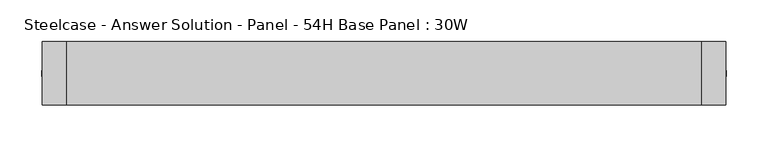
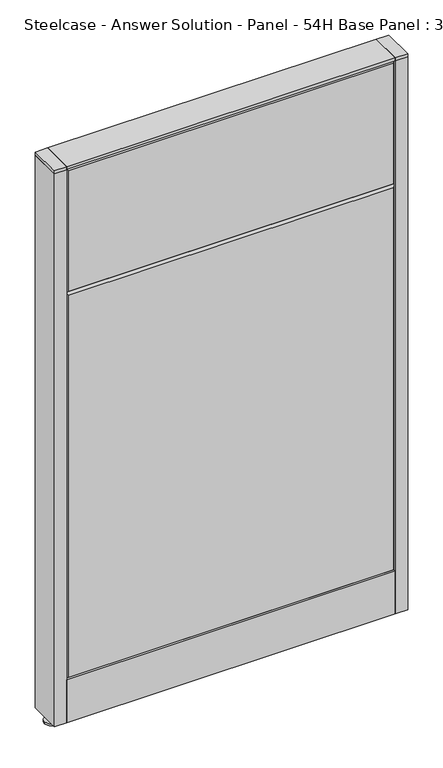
"""IFC4 building model written with IfcOpenShell, lengths in millimetres: furniture geometry, Steelcase - Answer Solution - Panel - 54H Base Panel : 30W."""

import ifcopenshell
import ifcopenshell.guid

model = None  # the IFC model being written
_history = None  # IfcOwnerHistory: only IFC2X3 demands one
_inside = {}  # id of a spatial element -> (the spatial element, [elements in it])
_under = {}  # id of a project, library or spatial element -> (it, [spatial elements below it])
_declared = {}  # id of a project -> (the project, [libraries it declares])
_typed = {}  # id of a type object -> (the type object, [elements of that type])
_made_of = {}  # id of a material, layer set ... -> (it, [elements and type objects made of it])


def new_model(schema):
    """Start an empty IFC model of exactly this schema.

    Asked for "IFC4X3", IfcOpenShell would pick the latest addendum, in which some entities
    have other attributes; the version numbers below select the first issue.
    IFC2X3 requires an IfcOwnerHistory on every rooted entity: one is made here for all.
    """
    global model, _history
    if schema == "IFC4X3":
        model = ifcopenshell.file(schema_version=(4, 3, 0, 0))
    else:
        model = ifcopenshell.file(schema=schema)
    _inside.clear()
    _under.clear()
    _declared.clear()
    _typed.clear()
    _made_of.clear()
    _history = None
    if model.schema == "IFC2X3":
        org = make("IfcOrganization", Name="unknown")
        user = make(
            "IfcPersonAndOrganization",
            ThePerson=make("IfcPerson", FamilyName="unknown"),
            TheOrganization=org,
        )
        app = make(
            "IfcApplication",
            ApplicationDeveloper=org,
            Version="unknown",
            ApplicationFullName="unknown",
            ApplicationIdentifier="unknown",
        )
        _history = make(
            "IfcOwnerHistory",
            OwningUser=user,
            OwningApplication=app,
            ChangeAction="ADDED",
            CreationDate=0,
        )
    return model


def make(cls, **values):
    """One entity of the class cls with the attributes given. An attribute that is None is left unset."""
    return model.create_entity(
        cls, **{name: value for name, value in values.items() if value is not None}
    )


def rooted(cls, **values):
    """An entity with a GlobalId (a new one), such as an element, a storey or a relation."""
    return make(cls, GlobalId=ifcopenshell.guid.new(), OwnerHistory=_history, **values)


def si_unit(unit_type, name, prefix=None):
    """IfcSIUnit, for example si_unit("LENGTHUNIT", "METRE", prefix="MILLI")."""
    return make("IfcSIUnit", UnitType=unit_type, Prefix=prefix, Name=name)


def assignment(units):
    """IfcUnitAssignment: the units of a project."""
    return None if units is None else make("IfcUnitAssignment", Units=units)


def point(xyz):
    """IfcCartesianPoint."""
    return None if xyz is None else make("IfcCartesianPoint", Coordinates=xyz)


def direction(xyz):
    """IfcDirection."""
    return None if xyz is None else make("IfcDirection", DirectionRatios=xyz)


def frame(location, z_axis=None, x_axis=None):
    """IfcAxis2Placement3D, a coordinate frame: its origin and axes. An axis left out is left unset."""
    return make(
        "IfcAxis2Placement3D",
        Location=point(location),
        Axis=direction(z_axis),
        RefDirection=direction(x_axis),
    )


def frame_2d(location, x_axis=None):
    """IfcAxis2Placement2D, a coordinate frame in the plane: its origin and x axis."""
    return make(
        "IfcAxis2Placement2D", Location=point(location), RefDirection=direction(x_axis)
    )


def origin():
    """The frame at (0, 0, 0) with its axes left unset."""
    return frame((0.0, 0.0, 0.0))


def place(relative_to, where):
    """IfcLocalPlacement: puts the frame where relative to a parent placement (None: the world)."""
    return make(
        "IfcLocalPlacement", PlacementRelTo=relative_to, RelativePlacement=where
    )


def context(
    kind, dimensions, precision=None, world=None, true_north=None, identifier=None
):
    """IfcGeometricRepresentationContext, for example the 3D "Model" context."""
    return make(
        "IfcGeometricRepresentationContext",
        ContextIdentifier=identifier,
        ContextType=kind,
        CoordinateSpaceDimension=dimensions,
        Precision=precision,
        WorldCoordinateSystem=world,
        TrueNorth=true_north,
    )


def project(units=None, contexts=None):
    """IfcProject with its units and contexts."""
    return rooted(
        "IfcProject",
        Name="project",
        RepresentationContexts=contexts,
        UnitsInContext=assignment(units),
    )


def spatial(cls, under=None, at=None, **own):
    """A site, building, storey or space (cls), placed at a placement, below another one or the project."""
    s = rooted(cls, ObjectPlacement=at, **own)
    if under is not None:
        _under.setdefault(under.id(), (under, []))[1].append(s)
    return s


def polyline(points):
    """IfcPolyline through the points."""
    return make("IfcPolyline", Points=[point(p) for p in points])


def circle_curve(where, radius):
    """IfcCircle in the frame where."""
    return make("IfcCircle", Position=where, Radius=radius)


def trimmed(basis, trim1, trim2, sense, master):
    """IfcTrimmedCurve: the piece of a basis curve between two trims."""
    return make(
        "IfcTrimmedCurve",
        BasisCurve=basis,
        Trim1=trim1,
        Trim2=trim2,
        SenseAgreement=sense,
        MasterRepresentation=master,
    )


def segment(curve, same_sense, transition):
    """IfcCompositeCurveSegment."""
    return make(
        "IfcCompositeCurveSegment",
        Transition=transition,
        SameSense=same_sense,
        ParentCurve=curve,
    )


def composite_curve(segments, self_intersect=None):
    """IfcCompositeCurve: segments joined end to end."""
    return make("IfcCompositeCurve", Segments=segments, SelfIntersect=self_intersect)


def outline(outer, holes=None, kind="AREA"):
    """IfcArbitraryClosedProfileDef: a profile drawn as a closed curve; with holes, ...WithVoids."""
    if holes is None:
        return make("IfcArbitraryClosedProfileDef", ProfileType=kind, OuterCurve=outer)
    return make(
        "IfcArbitraryProfileDefWithVoids",
        ProfileType=kind,
        OuterCurve=outer,
        InnerCurves=holes,
    )


def extrude(swept, where, along, depth):
    """IfcExtrudedAreaSolid: the profile swept, set in the frame where, extruded along a direction by depth."""
    return make(
        "IfcExtrudedAreaSolid",
        SweptArea=swept,
        Position=where,
        ExtrudedDirection=direction(along),
        Depth=depth,
    )


def faces_of(points, faces, orient=None, outer=None):
    """IfcFace entities. A face is a list of loops; a loop is a list of indices into points, from 0.

    orient and outer hold one flag for each loop. By default every Orientation is true, the
    first loop of a face is its IfcFaceOuterBound and the others are IfcFaceBound.
    """
    made = []
    for i, loops in enumerate(faces):
        bounds = []
        for j, loop in enumerate(loops):
            is_outer = j == 0 if outer is None else outer[i][j]
            bounds.append(
                make(
                    "IfcFaceOuterBound" if is_outer else "IfcFaceBound",
                    Bound=make("IfcPolyLoop", Polygon=[points[k] for k in loop]),
                    Orientation=True if orient is None else orient[i][j],
                )
            )
        made.append(make("IfcFace", Bounds=bounds))
    return made


def faceted_brep(points, faces, orient=None, outer=None, voids=None):
    """IfcFacetedBrep: a solid bounded by flat faces; with voids (closed shells), ...WithVoids."""
    shared = [point(p) for p in points]
    hull = make("IfcClosedShell", CfsFaces=faces_of(shared, faces, orient, outer))
    if voids is None:
        return make("IfcFacetedBrep", Outer=hull)
    return make(
        "IfcFacetedBrepWithVoids",
        Outer=hull,
        Voids=[
            make(cls, CfsFaces=faces_of(shared, fs, o, b)) for cls, fs, o, b in voids
        ],
    )


def shape(context_of_items, identifier, shape_type, items):
    """IfcShapeRepresentation: the items that make up one representation, for example the "Body"."""
    return make(
        "IfcShapeRepresentation",
        ContextOfItems=context_of_items,
        RepresentationIdentifier=identifier,
        RepresentationType=shape_type,
        Items=items,
    )


def source(mapping_origin, context_of_items, identifier, shape_type, items):
    """IfcRepresentationMap: a shape defined once, which mapped items show again and again."""
    return make(
        "IfcRepresentationMap",
        MappingOrigin=mapping_origin,
        MappedRepresentation=shape(context_of_items, identifier, shape_type, items),
    )


def transform(
    local_origin,
    x_axis=None,
    y_axis=None,
    z_axis=None,
    scale=None,
    scale2=None,
    scale3=None,
    uniform=True,
):
    """IfcCartesianTransformationOperator3D, or its non-uniform kind. x_axis, y_axis, z_axis: its Axis1, 2, 3."""
    if uniform:
        return make(
            "IfcCartesianTransformationOperator3D",
            Axis1=direction(x_axis),
            Axis2=direction(y_axis),
            LocalOrigin=point(local_origin),
            Scale=scale,
            Axis3=direction(z_axis),
        )
    return make(
        "IfcCartesianTransformationOperator3DnonUniform",
        Axis1=direction(x_axis),
        Axis2=direction(y_axis),
        LocalOrigin=point(local_origin),
        Scale=scale,
        Axis3=direction(z_axis),
        Scale2=scale2,
        Scale3=scale3,
    )


def mapped(mapping_source, mapping_target):
    """IfcMappedItem: shows the shape of a source again, moved by a transform."""
    return make(
        "IfcMappedItem", MappingSource=mapping_source, MappingTarget=mapping_target
    )


def made_of(thing, what):
    """Note that an element or type object is made of a material, layer set ...; save() writes the relation."""
    if what is not None:
        _made_of.setdefault(what.id(), (what, []))[1].append(thing)
    return thing


def element(
    cls,
    number,
    at=None,
    inside=None,
    cuts=None,
    type_object=None,
    material=None,
    context=None,
    identifier="Body",
    shape_type=None,
    held_by="IfcProductDefinitionShape",
    body=None,
    shapes=None,
    **own,
):
    """One element of the class cls, such as IfcWall. Its Tag is "e" and its number.

    at: its placement. inside: the storey or other place that contains it. cuts: it is an
    opening in that element (IfcRelVoidsElement). A single representation is given by context,
    identifier, shape_type and body (its items); several are given by shapes. held_by: the class
    of the entity that holds the representations. save() writes the other relations.
    """
    e = rooted(cls, Tag="e%d" % number, ObjectPlacement=at, **own)
    if body is not None:
        shapes = [shape(context, identifier, shape_type, body)]
    if shapes is not None:
        e.Representation = make(held_by, Representations=shapes)
    if inside is not None:
        _inside.setdefault(inside.id(), (inside, []))[1].append(e)
    if cuts is not None:
        rooted(
            "IfcRelVoidsElement", RelatingBuildingElement=cuts, RelatedOpeningElement=e
        )
    if type_object is not None:
        _typed.setdefault(type_object.id(), (type_object, []))[1].append(e)
    return made_of(e, material)


def aggregate(whole, parts):
    """IfcRelAggregates: a whole, such as a stair, and the parts it consists of."""
    return rooted("IfcRelAggregates", RelatingObject=whole, RelatedObjects=parts)


def save(model, path):
    """Write the relations noted so far, then the file.

    IfcRelAggregates (storeys below a building ...), IfcRelContainedInSpatialStructure (elements
    in a storey), IfcRelDefinesByType, IfcRelAssociatesMaterial and IfcRelDeclares: one each for
    every whole, place, type object, material and project.
    """
    for whole, parts in _under.values():
        aggregate(whole, parts)
    for where, things in _inside.values():
        rooted(
            "IfcRelContainedInSpatialStructure",
            RelatedElements=things,
            RelatingStructure=where,
        )
    for kind, things in _typed.values():
        rooted("IfcRelDefinesByType", RelatedObjects=things, RelatingType=kind)
    for what, things in _made_of.values():
        rooted("IfcRelAssociatesMaterial", RelatedObjects=things, RelatingMaterial=what)
    for by, libraries in _declared.values():
        rooted("IfcRelDeclares", RelatingContext=by, RelatedDefinitions=libraries)
    model.write(path)


def steelcase_answer_solution_panel_54h_base_panel_30w_9a1079d4(model_context):
    return source(origin(), model_context, "Body", "SolidModel", [
        extrude(outline(composite_curve([segment(trimmed(circle_curve(frame_2d((395.224, 0.0320214)), 5.08), [point((400.304, 0.0320214))], [point((390.144, 0.0320214))], False, "CARTESIAN"), True, "CONTINUOUS"), segment(trimmed(circle_curve(frame_2d((395.224, 0.0320214)), 5.08), [point((390.144, 0.0320214))], [point((400.304, 0.0320214))], False, "CARTESIAN"), True, "CONTINUOUS")], self_intersect=False)), frame((0.0, 0.0, 5.0799671), z_axis=(0.0, 0.0, 1.0), x_axis=(1.0, 0.0, 0.0)), (0.0, 0.0, 1.0), 10.414),
        extrude(outline(composite_curve([segment(trimmed(circle_curve(frame_2d((395.224, 0.0320214)), 15.24), [point((410.464, 0.0320214))], [point((379.984, 0.0320214))], False, "CARTESIAN"), True, "CONTINUOUS"), segment(trimmed(circle_curve(frame_2d((395.224, 0.0320214)), 15.24), [point((379.984, 0.0320214))], [point((410.464, 0.0320214))], False, "CARTESIAN"), True, "CONTINUOUS")], self_intersect=False)), frame((0.0, 0.0, -3.29e-05), z_axis=(0.0, 0.0, 1.0), x_axis=(1.0, 0.0, 0.0)), (0.0, 0.0, 1.0), 5.08),
        extrude(outline(polyline([(409.575, 38.1320408), (409.575, -38.0679592), (381.0, -38.0679592), (381.0, 38.1320408), (409.575, 38.1320408)])), frame((0.0, 0.0, 1370.6348), z_axis=(0.0, 0.0, 1.0), x_axis=(1.0, 0.0, 0.0)), (0.0, 0.0, 1.0), 7.3151671),
        extrude(outline(polyline([(409.575, 38.1320408), (409.575, -38.0679592), (381.0, -38.0679592), (381.0, 38.1320408), (409.575, 38.1320408)])), frame((0.0, 0.0, 15.4939671), z_axis=(0.0, 0.0, 1.0), x_axis=(1.0, 0.0, 0.0)), (0.0, 0.0, 1.0), 1355.1408329),
        extrude(outline(composite_curve([segment(trimmed(circle_curve(frame_2d((-395.224, 0.0320214)), 5.08), [point((-400.304, 0.0320214))], [point((-390.144, 0.0320214))], False, "CARTESIAN"), True, "CONTINUOUS"), segment(trimmed(circle_curve(frame_2d((-395.224, 0.0320214)), 5.08), [point((-390.144, 0.0320214))], [point((-400.304, 0.0320214))], False, "CARTESIAN"), True, "CONTINUOUS")], self_intersect=False)), frame((0.0, 0.0, 5.0799671), z_axis=(0.0, 0.0, 1.0), x_axis=(1.0, 0.0, 0.0)), (0.0, 0.0, 1.0), 10.414),
        extrude(outline(composite_curve([segment(trimmed(circle_curve(frame_2d((-395.224, 0.0320214)), 15.24), [point((-410.464, 0.0320214))], [point((-379.984, 0.0320214))], False, "CARTESIAN"), True, "CONTINUOUS"), segment(trimmed(circle_curve(frame_2d((-395.224, 0.0320214)), 15.24), [point((-379.984, 0.0320214))], [point((-410.464, 0.0320214))], False, "CARTESIAN"), True, "CONTINUOUS")], self_intersect=False)), frame((0.0, 0.0, -3.29e-05), z_axis=(0.0, 0.0, 1.0), x_axis=(1.0, 0.0, 0.0)), (0.0, 0.0, 1.0), 5.08),
        extrude(outline(polyline([(-409.575, 38.1320408), (-381.0, 38.1320408), (-381.0, -38.0679592), (-409.575, -38.0679592), (-409.575, 38.1320408)])), frame((0.0, 0.0, 1370.6348), z_axis=(0.0, 0.0, 1.0), x_axis=(1.0, 0.0, 0.0)), (0.0, 0.0, 1.0), 7.3151671),
        extrude(outline(polyline([(-409.575, 38.1320408), (-381.0, 38.1320408), (-381.0, -38.0679592), (-409.575, -38.0679592), (-409.575, 38.1320408)])), frame((0.0, 0.0, 15.4939671), z_axis=(0.0, 0.0, 1.0), x_axis=(1.0, 0.0, 0.0)), (0.0, 0.0, 1.0), 1355.1408329),
        faceted_brep([(-376.174, 38.1635011, 1366.774), (376.174, 38.1635011, 1366.774), (376.174, 38.1635011, 1071.626), (-376.174, 38.1635011, 1071.626), (-381.0, 33.3375011, 1371.6), (-381.0, 33.3375011, 1066.8), (381.0, 33.3375011, 1066.8), (381.0, 33.3375011, 1371.6)], [[[0, 1, 2, 3]], [[4, 5, 6, 7]], [[4, 7, 1, 0]], [[7, 6, 2, 1]], [[6, 5, 3, 2]], [[5, 4, 0, 3]]]),
        faceted_brep([(-376.174, 38.1635011, 1061.974), (376.174, 38.1635011, 1061.974), (376.174, 38.1635011, 125.476), (-376.174, 38.1635011, 125.476), (-381.0, 33.3375011, 1066.8), (-381.0, 33.3375011, 120.65), (381.0, 33.3375011, 120.65), (381.0, 33.3375011, 1066.8)], [[[0, 1, 2, 3]], [[4, 5, 6, 7]], [[4, 7, 1, 0]], [[7, 6, 2, 1]], [[6, 5, 3, 2]], [[5, 4, 0, 3]]]),
        faceted_brep([(376.174, -38.1635011, 1366.774), (-376.174, -38.1635011, 1366.774), (-376.174, -38.1635011, 1071.626), (376.174, -38.1635011, 1071.626), (381.0, -33.3375011, 1371.6), (381.0, -33.3375011, 1066.8), (-381.0, -33.3375011, 1066.8), (-381.0, -33.3375011, 1371.6)], [[[0, 1, 2, 3]], [[4, 5, 6, 7]], [[4, 7, 1, 0]], [[7, 6, 2, 1]], [[6, 5, 3, 2]], [[5, 4, 0, 3]]]),
        faceted_brep([(376.174, -38.1635011, 1061.974), (-376.174, -38.1635011, 1061.974), (-376.174, -38.1635011, 125.476), (376.174, -38.1635011, 125.476), (381.0, -33.3375011, 1066.8), (381.0, -33.3375011, 120.65), (-381.0, -33.3375011, 120.65), (-381.0, -33.3375011, 1066.8)], [[[0, 1, 2, 3]], [[4, 5, 6, 7]], [[4, 7, 1, 0]], [[7, 6, 2, 1]], [[6, 5, 3, 2]], [[5, 4, 0, 3]]]),
        extrude(outline(polyline([(381.0, 38.1000194), (381.0, -38.1000194), (-381.0, -38.1000194), (-381.0, 38.1000194), (381.0, 38.1000194)])), frame((0.0, 0.0, 1371.6), z_axis=(0.0, 0.0, 1.0), x_axis=(1.0, 0.0, 0.0)), (0.0, 0.0, 1.0), 6.35),
        extrude(outline(polyline([(25.4000011, 119.8575157), (25.4000011, 120.65), (38.1000194, 120.65), (38.1000194, 15.494), (37.3075215, 15.494), (37.3075215, 119.8575157), (25.4000011, 119.8575157)])), frame((-381.0, 0.0, 0.0), z_axis=(1.0, 0.0, 0.0), x_axis=(0.0, 1.0, 0.0)), (0.0, 0.0, 1.0), 762.0),
        extrude(outline(polyline([(-25.4000011, 119.8575157), (-37.3075215, 119.8575157), (-37.3075215, 15.494), (-38.1000194, 15.494), (-38.1000194, 120.65), (-25.4000011, 120.65), (-25.4000011, 119.8575157)])), frame((-381.0, 0.0, 0.0), z_axis=(1.0, 0.0, 0.0), x_axis=(0.0, 1.0, 0.0)), (0.0, 0.0, 1.0), 762.0),
    ])


if __name__ == "__main__":
    model = new_model("IFC4")
    model_context = context("Model", 3, world=origin())
    ifc_project = project(units=[si_unit("LENGTHUNIT", "METRE", prefix="MILLI")], contexts=[model_context])
    site = spatial("IfcSite", under=ifc_project)
    building = spatial("IfcBuilding", under=site)
    placement = place(None, origin())
    steelcase_answer_solution_panel_54h_base_panel_30w_shape = steelcase_answer_solution_panel_54h_base_panel_30w_9a1079d4(model_context)
    element("IfcFurniture", 1, ObjectType="Steelcase - Answer Solution - Panel - 54H Base Panel : 30W", at=placement, inside=building, context=model_context, shape_type="MappedRepresentation", body=[
        mapped(steelcase_answer_solution_panel_54h_base_panel_30w_shape, transform((0.0, 0.0, 0.0), x_axis=(1.0, 0.0, 0.0), y_axis=(0.0, 1.0, 0.0), z_axis=(0.0, 0.0, 1.0))),
    ])
    save(model, "model.ifc")
